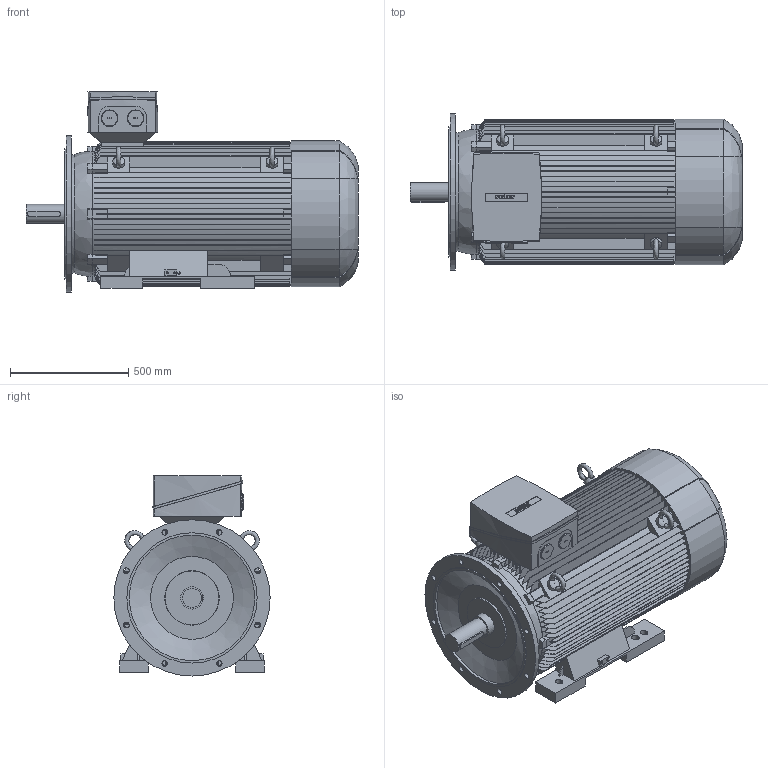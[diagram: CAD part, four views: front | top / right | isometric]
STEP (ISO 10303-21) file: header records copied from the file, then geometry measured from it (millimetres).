
FILE_DESCRIPTION (( 'STEP AP214' ), '1' );
FILE_NAME ('6RN315L06E26 IM2001.STEP', '2016-03-17T15:08:35', ( 'rotor' ), ( 'Hewlett-Packard Company' ), 'SwSTEP 2.0', 'SolidWorks 2012', '' );
FILE_SCHEMA (( 'AUTOMOTIVE_DESIGN' ));
Length unit declared in the file: millimetre
Products named in the file (1): 6RN315L06E26 IM2001
Bounding box: 1402 x 660 x 845 mm (x, y, z)
Volume: 321123067 mm3; surface area: 9068475.7 mm2
Topology: 7 solids, 7 shells, 1092 faces, 3111 edges, 2054 vertices
Faces by surface type: plane 716, bspline 200, cylinder 171, cone 5
Full cylindrical faces by diameter (mm): 8 x4, 24 x8, 50 x4, 70 x2, 80 x1, 95 x1, 500 x1, 530 x1, 550 x1, 660 x1
Entity records: 53237 total; most frequent: CARTESIAN_POINT 15129, ORIENTED_EDGE 6112, DIRECTION 4905, EDGE_CURVE 3056, VERTEX_POINT 2036, VECTOR 1887, LINE 1887, AXIS2_PLACEMENT_3D 1509
